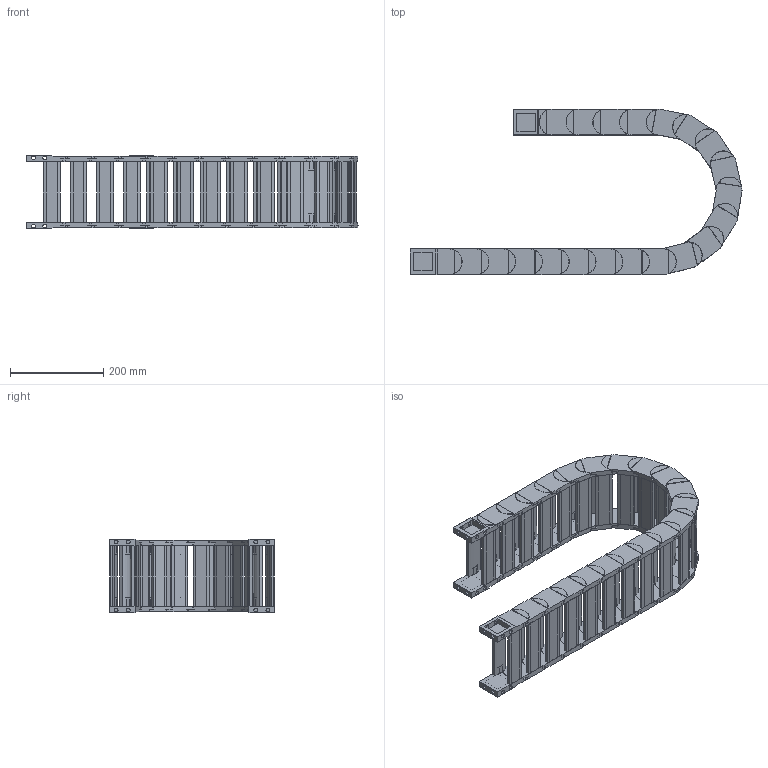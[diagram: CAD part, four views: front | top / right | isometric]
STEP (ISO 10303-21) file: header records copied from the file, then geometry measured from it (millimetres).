
FILE_DESCRIPTION((''),'2;1');
FILE_NAME('HD35-R150-ZPT_ASM','2022-06-17T14:03:07',('admin'),(''),'CREO PARAMETRIC BY PTC INC, 2021164','CREO PARAMETRIC BY PTC INC, 2021164','');
FILE_SCHEMA(('CONFIG_CONTROL_DESIGN','GEOMETRIC_VALIDATION_PROPERTIES_MIM'));
Length unit declared in the file: millimetre
Products named in the file (6): HD35; 35-600001; HD35_ASM; 35-TL_11; 35-WL; HD35-R150-ZPT_ASM
Assembly tree (26 placements, depth 3):
  HD35-R150-ZPT_ASM
    HD35_ASM  x20
      HD35
      35-600001
    35-TL_11
    35-WL
    35-600001  x2
Bounding box: 713.07 x 354.77 x 158.5 mm (x, y, z)
Volume: 3450983.8 mm3; surface area: 1206248.6 mm2
Topology: 88 solids, 88 shells, 1642 faces, 4370 edges, 2996 vertices
Faces by surface type: plane 1118, cylinder 524
Entity records: 9431 total; most frequent: DIRECTION 1426, CARTESIAN_POINT 1416, ORIENTED_EDGE 1300, EDGE_CURVE 650, AXIS2_PLACEMENT_3D 508, VERTEX_POINT 440, VECTOR 410, LINE 410
